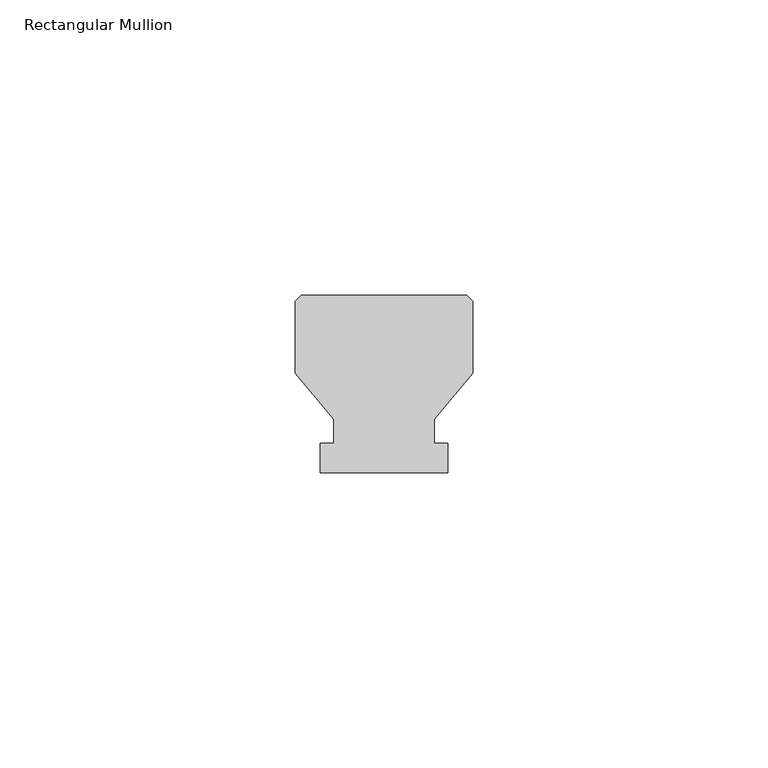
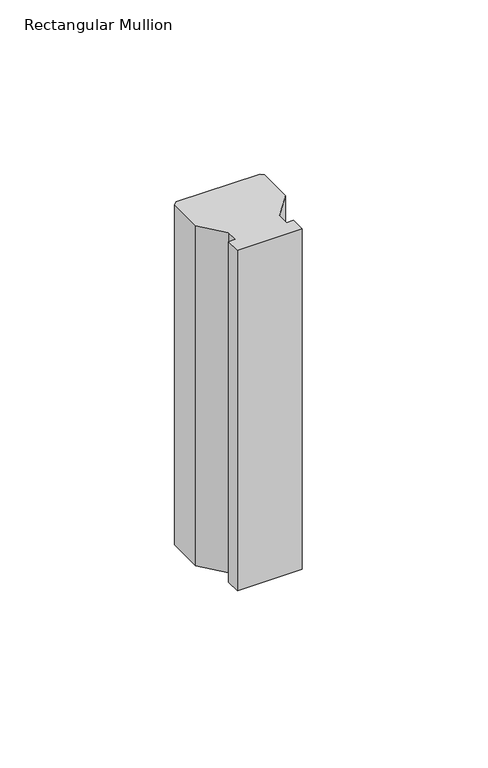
"""IFC4 building model written with IfcOpenShell, lengths in millimetres: member geometry, Rectangular Mullion : Batten_Timber_Modinex_Austratus_Grid_Fin_30x30_AlaskanYellowCedar."""

import ifcopenshell
import ifcopenshell.guid

model = None  # the IFC model being written
_history = None  # IfcOwnerHistory: only IFC2X3 demands one
_inside = {}  # id of a spatial element -> (the spatial element, [elements in it])
_under = {}  # id of a project, library or spatial element -> (it, [spatial elements below it])
_declared = {}  # id of a project -> (the project, [libraries it declares])
_typed = {}  # id of a type object -> (the type object, [elements of that type])
_made_of = {}  # id of a material, layer set ... -> (it, [elements and type objects made of it])


def new_model(schema):
    """Start an empty IFC model of exactly this schema.

    Asked for "IFC4X3", IfcOpenShell would pick the latest addendum, in which some entities
    have other attributes; the version numbers below select the first issue.
    IFC2X3 requires an IfcOwnerHistory on every rooted entity: one is made here for all.
    """
    global model, _history
    if schema == "IFC4X3":
        model = ifcopenshell.file(schema_version=(4, 3, 0, 0))
    else:
        model = ifcopenshell.file(schema=schema)
    _inside.clear()
    _under.clear()
    _declared.clear()
    _typed.clear()
    _made_of.clear()
    _history = None
    if model.schema == "IFC2X3":
        org = make("IfcOrganization", Name="unknown")
        user = make(
            "IfcPersonAndOrganization",
            ThePerson=make("IfcPerson", FamilyName="unknown"),
            TheOrganization=org,
        )
        app = make(
            "IfcApplication",
            ApplicationDeveloper=org,
            Version="unknown",
            ApplicationFullName="unknown",
            ApplicationIdentifier="unknown",
        )
        _history = make(
            "IfcOwnerHistory",
            OwningUser=user,
            OwningApplication=app,
            ChangeAction="ADDED",
            CreationDate=0,
        )
    return model


def make(cls, **values):
    """One entity of the class cls with the attributes given. An attribute that is None is left unset."""
    return model.create_entity(
        cls, **{name: value for name, value in values.items() if value is not None}
    )


def rooted(cls, **values):
    """An entity with a GlobalId (a new one), such as an element, a storey or a relation."""
    return make(cls, GlobalId=ifcopenshell.guid.new(), OwnerHistory=_history, **values)


def si_unit(unit_type, name, prefix=None):
    """IfcSIUnit, for example si_unit("LENGTHUNIT", "METRE", prefix="MILLI")."""
    return make("IfcSIUnit", UnitType=unit_type, Prefix=prefix, Name=name)


def assignment(units):
    """IfcUnitAssignment: the units of a project."""
    return None if units is None else make("IfcUnitAssignment", Units=units)


def point(xyz):
    """IfcCartesianPoint."""
    return None if xyz is None else make("IfcCartesianPoint", Coordinates=xyz)


def direction(xyz):
    """IfcDirection."""
    return None if xyz is None else make("IfcDirection", DirectionRatios=xyz)


def frame(location, z_axis=None, x_axis=None):
    """IfcAxis2Placement3D, a coordinate frame: its origin and axes. An axis left out is left unset."""
    return make(
        "IfcAxis2Placement3D",
        Location=point(location),
        Axis=direction(z_axis),
        RefDirection=direction(x_axis),
    )


def origin():
    """The frame at (0, 0, 0) with its axes left unset."""
    return frame((0.0, 0.0, 0.0))


def place(relative_to, where):
    """IfcLocalPlacement: puts the frame where relative to a parent placement (None: the world)."""
    return make(
        "IfcLocalPlacement", PlacementRelTo=relative_to, RelativePlacement=where
    )


def context(
    kind, dimensions, precision=None, world=None, true_north=None, identifier=None
):
    """IfcGeometricRepresentationContext, for example the 3D "Model" context."""
    return make(
        "IfcGeometricRepresentationContext",
        ContextIdentifier=identifier,
        ContextType=kind,
        CoordinateSpaceDimension=dimensions,
        Precision=precision,
        WorldCoordinateSystem=world,
        TrueNorth=true_north,
    )


def project(units=None, contexts=None):
    """IfcProject with its units and contexts."""
    return rooted(
        "IfcProject",
        Name="project",
        RepresentationContexts=contexts,
        UnitsInContext=assignment(units),
    )


def spatial(cls, under=None, at=None, **own):
    """A site, building, storey or space (cls), placed at a placement, below another one or the project."""
    s = rooted(cls, ObjectPlacement=at, **own)
    if under is not None:
        _under.setdefault(under.id(), (under, []))[1].append(s)
    return s


def polyline(points):
    """IfcPolyline through the points."""
    return make("IfcPolyline", Points=[point(p) for p in points])


def outline(outer, holes=None, kind="AREA"):
    """IfcArbitraryClosedProfileDef: a profile drawn as a closed curve; with holes, ...WithVoids."""
    if holes is None:
        return make("IfcArbitraryClosedProfileDef", ProfileType=kind, OuterCurve=outer)
    return make(
        "IfcArbitraryProfileDefWithVoids",
        ProfileType=kind,
        OuterCurve=outer,
        InnerCurves=holes,
    )


def extrude(swept, where, along, depth):
    """IfcExtrudedAreaSolid: the profile swept, set in the frame where, extruded along a direction by depth."""
    return make(
        "IfcExtrudedAreaSolid",
        SweptArea=swept,
        Position=where,
        ExtrudedDirection=direction(along),
        Depth=depth,
    )


def shape(context_of_items, identifier, shape_type, items):
    """IfcShapeRepresentation: the items that make up one representation, for example the "Body"."""
    return make(
        "IfcShapeRepresentation",
        ContextOfItems=context_of_items,
        RepresentationIdentifier=identifier,
        RepresentationType=shape_type,
        Items=items,
    )


def source(mapping_origin, context_of_items, identifier, shape_type, items):
    """IfcRepresentationMap: a shape defined once, which mapped items show again and again."""
    return make(
        "IfcRepresentationMap",
        MappingOrigin=mapping_origin,
        MappedRepresentation=shape(context_of_items, identifier, shape_type, items),
    )


def transform(
    local_origin,
    x_axis=None,
    y_axis=None,
    z_axis=None,
    scale=None,
    scale2=None,
    scale3=None,
    uniform=True,
):
    """IfcCartesianTransformationOperator3D, or its non-uniform kind. x_axis, y_axis, z_axis: its Axis1, 2, 3."""
    if uniform:
        return make(
            "IfcCartesianTransformationOperator3D",
            Axis1=direction(x_axis),
            Axis2=direction(y_axis),
            LocalOrigin=point(local_origin),
            Scale=scale,
            Axis3=direction(z_axis),
        )
    return make(
        "IfcCartesianTransformationOperator3DnonUniform",
        Axis1=direction(x_axis),
        Axis2=direction(y_axis),
        LocalOrigin=point(local_origin),
        Scale=scale,
        Axis3=direction(z_axis),
        Scale2=scale2,
        Scale3=scale3,
    )


def mapped(mapping_source, mapping_target):
    """IfcMappedItem: shows the shape of a source again, moved by a transform."""
    return make(
        "IfcMappedItem", MappingSource=mapping_source, MappingTarget=mapping_target
    )


def made_of(thing, what):
    """Note that an element or type object is made of a material, layer set ...; save() writes the relation."""
    if what is not None:
        _made_of.setdefault(what.id(), (what, []))[1].append(thing)
    return thing


def element(
    cls,
    number,
    at=None,
    inside=None,
    cuts=None,
    type_object=None,
    material=None,
    context=None,
    identifier="Body",
    shape_type=None,
    held_by="IfcProductDefinitionShape",
    body=None,
    shapes=None,
    **own,
):
    """One element of the class cls, such as IfcWall. Its Tag is "e" and its number.

    at: its placement. inside: the storey or other place that contains it. cuts: it is an
    opening in that element (IfcRelVoidsElement). A single representation is given by context,
    identifier, shape_type and body (its items); several are given by shapes. held_by: the class
    of the entity that holds the representations. save() writes the other relations.
    """
    e = rooted(cls, Tag="e%d" % number, ObjectPlacement=at, **own)
    if body is not None:
        shapes = [shape(context, identifier, shape_type, body)]
    if shapes is not None:
        e.Representation = make(held_by, Representations=shapes)
    if inside is not None:
        _inside.setdefault(inside.id(), (inside, []))[1].append(e)
    if cuts is not None:
        rooted(
            "IfcRelVoidsElement", RelatingBuildingElement=cuts, RelatedOpeningElement=e
        )
    if type_object is not None:
        _typed.setdefault(type_object.id(), (type_object, []))[1].append(e)
    return made_of(e, material)


def aggregate(whole, parts):
    """IfcRelAggregates: a whole, such as a stair, and the parts it consists of."""
    return rooted("IfcRelAggregates", RelatingObject=whole, RelatedObjects=parts)


def save(model, path):
    """Write the relations noted so far, then the file.

    IfcRelAggregates (storeys below a building ...), IfcRelContainedInSpatialStructure (elements
    in a storey), IfcRelDefinesByType, IfcRelAssociatesMaterial and IfcRelDeclares: one each for
    every whole, place, type object, material and project.
    """
    for whole, parts in _under.values():
        aggregate(whole, parts)
    for where, things in _inside.values():
        rooted(
            "IfcRelContainedInSpatialStructure",
            RelatedElements=things,
            RelatingStructure=where,
        )
    for kind, things in _typed.values():
        rooted("IfcRelDefinesByType", RelatedObjects=things, RelatingType=kind)
    for what, things in _made_of.values():
        rooted("IfcRelAssociatesMaterial", RelatedObjects=things, RelatingMaterial=what)
    for by, libraries in _declared.values():
        rooted("IfcRelDeclares", RelatingContext=by, RelatedDefinitions=libraries)
    model.write(path)


def rectangular_mullion_707a50c4(model_context):
    return source(origin(), model_context, "Body", "SweptSolid", [
        extrude(outline(polyline([(-15.0, 16.8079815), (-15.0, 29.0), (-14.0, 30.0), (14.0, 30.0), (15.0, 29.0), (15.0, 16.8079815), (8.5, 9.0), (8.5, 5.0), (10.812195, 5.0), (10.812195, 0.0), (-10.812195, 0.0), (-10.812195, 5.0), (-8.5, 5.0), (-8.5, 9.0), (-15.0, 16.8079815)])), frame((0.0, 0.0, -120.0), z_axis=(0.0, 0.0, 1.0), x_axis=(1.0, 0.0, 0.0)), (0.0, 0.0, 1.0), 120.0),
    ])


if __name__ == "__main__":
    model = new_model("IFC4")
    model_context = context("Model", 3, world=origin())
    ifc_project = project(units=[si_unit("LENGTHUNIT", "METRE", prefix="MILLI")], contexts=[model_context])
    site = spatial("IfcSite", under=ifc_project)
    building = spatial("IfcBuilding", under=site)
    placement = place(None, origin())
    rectangular_mullion_shape = rectangular_mullion_707a50c4(model_context)
    element("IfcMember", 1, ObjectType="Rectangular Mullion : Batten_Timber_Modinex_Austratus_Grid_Fin_30x30_AlaskanYellowCedar", at=placement, inside=building, context=model_context, shape_type="MappedRepresentation", body=[
        mapped(rectangular_mullion_shape, transform((0.0, 0.0, 0.0), x_axis=(1.0, 0.0, 0.0), y_axis=(0.0, 1.0, 0.0), z_axis=(0.0, 0.0, 1.0))),
    ])
    save(model, "model.ifc")
